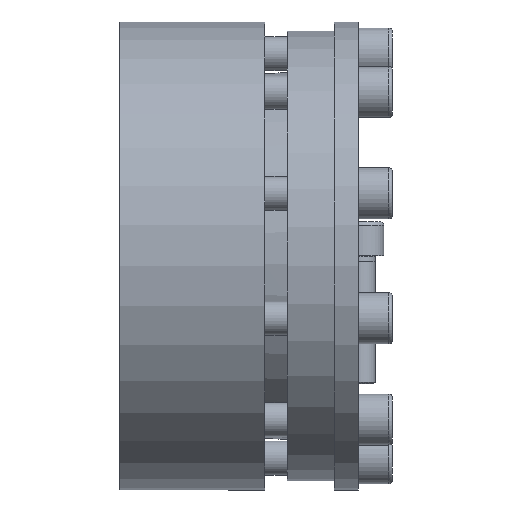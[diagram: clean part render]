
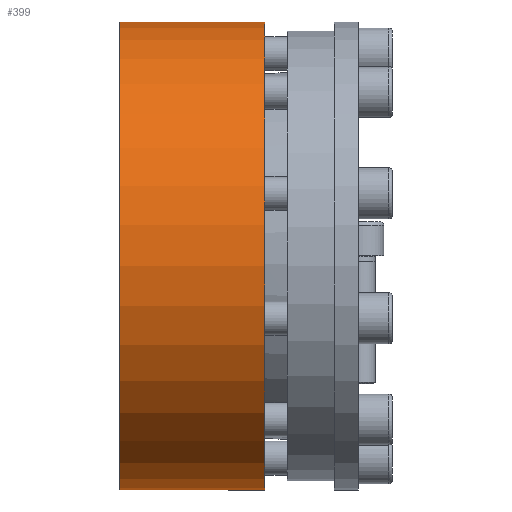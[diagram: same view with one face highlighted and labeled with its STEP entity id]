
A CAD part, left-side view. The second image highlights one B-rep face of the part: STEP entity #399.
In plain terms, the highlighted cylindrical face has radius 82.5 mm (diameter 165 mm), a partial arc.
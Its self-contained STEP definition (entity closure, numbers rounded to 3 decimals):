
#399 = ADVANCED_FACE( '', ( #639 ), #640, .T. );
#639 = FACE_OUTER_BOUND( '', #827, .T. );
#640 = CYLINDRICAL_SURFACE( '', #828, 82.5 );
#827 = EDGE_LOOP( '', ( #1097, #1098, #1099, #1100 ) );
#828 = AXIS2_PLACEMENT_3D( '', #1101, #1102, #1103 );
#1097 = ORIENTED_EDGE( '', *, *, #1430, .F. );
#1098 = ORIENTED_EDGE( '', *, *, #1437, .T. );
#1099 = ORIENTED_EDGE( '', *, *, #1442, .T. );
#1100 = ORIENTED_EDGE( '', *, *, #1402, .T. );
#1101 = CARTESIAN_POINT( '', ( 0., -60., 0. ) );
#1102 = DIRECTION( '', ( 0., 1., 0. ) );
#1103 = DIRECTION( '', ( 0., 0., -1. ) );
#1402 = EDGE_CURVE( '', #1555, #1553, #1556, .T. );
#1430 = EDGE_CURVE( '', #1606, #1553, #1608, .T. );
#1437 = EDGE_CURVE( '', #1606, #1619, #1621, .F. );
#1442 = EDGE_CURVE( '', #1619, #1555, #1629, .T. );
#1553 = VERTEX_POINT( '', #1707 );
#1555 = VERTEX_POINT( '', #1710 );
#1556 = LINE( '', #1711, #1712 );
#1606 = VERTEX_POINT( '', #1768 );
#1608 = CIRCLE( '', #1771, 82.5 );
#1619 = VERTEX_POINT( '', #1786 );
#1621 = LINE( '', #1789, #1790 );
#1629 = CIRCLE( '', #1801, 82.5 );
#1707 = CARTESIAN_POINT( '', ( 27.058, 33., 77.937 ) );
#1710 = CARTESIAN_POINT( '', ( 27.058, 84., 77.937 ) );
#1711 = CARTESIAN_POINT( '', ( 27.058, -60., 77.937 ) );
#1712 = VECTOR( '', #1859, 1000. );
#1768 = CARTESIAN_POINT( '', ( 23.92, 33., 78.956 ) );
#1771 = AXIS2_PLACEMENT_3D( '', #1930, #1931, #1932 );
#1786 = CARTESIAN_POINT( '', ( 23.92, 84., 78.956 ) );
#1789 = CARTESIAN_POINT( '', ( 23.92, -60., 78.956 ) );
#1790 = VECTOR( '', #1944, 1000. );
#1801 = AXIS2_PLACEMENT_3D( '', #1951, #1952, #1953 );
#1859 = DIRECTION( '', ( 0., -1., 0. ) );
#1930 = CARTESIAN_POINT( '', ( 0., 33., 0. ) );
#1931 = DIRECTION( '', ( 0., -1., 0. ) );
#1932 = DIRECTION( '', ( 0., 0., -1. ) );
#1944 = DIRECTION( '', ( 0., -1., 0. ) );
#1951 = CARTESIAN_POINT( '', ( 0., 84., 0. ) );
#1952 = DIRECTION( '', ( 0., -1., 0. ) );
#1953 = DIRECTION( '', ( 0., 0., -1. ) );
